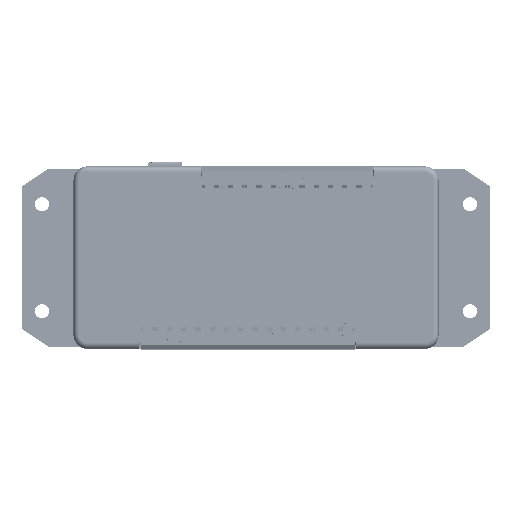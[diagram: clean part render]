
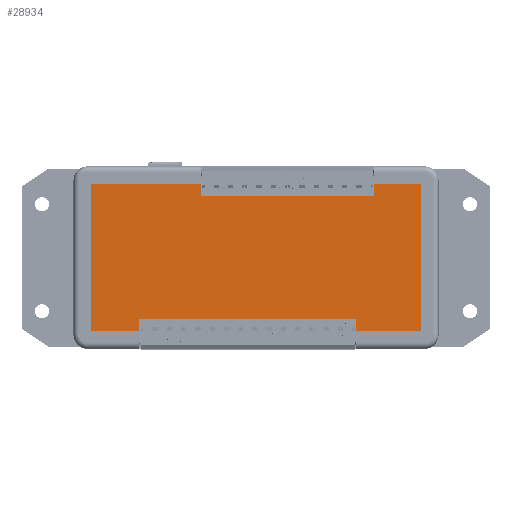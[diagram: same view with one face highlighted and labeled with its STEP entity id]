
A CAD part, top view. The second image highlights one B-rep face of the part: STEP entity #28934.
In plain terms, the highlighted planar face has unit normal (0, 0, 1) as drawn and (0, 0, -1) by its records, which use the part's own axes.
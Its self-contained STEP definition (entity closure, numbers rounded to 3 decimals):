
#571 = VERTEX_POINT ( 'NONE', #87864 ) ;
#5915 = EDGE_CURVE ( 'NONE', #27795, #58516, #85189, .T. ) ;
#7219 = DIRECTION ( 'NONE',  ( 0., 0., 1. ) ) ;
#8303 = DIRECTION ( 'NONE',  ( -1., 0., 0. ) ) ;
#8310 = CARTESIAN_POINT ( 'NONE',  ( 42., 0., 1. ) ) ;
#8472 = ORIENTED_EDGE ( 'NONE', *, *, #76741, .T. ) ;
#9124 = ORIENTED_EDGE ( 'NONE', *, *, #62205, .T. ) ;
#14053 = CARTESIAN_POINT ( 'NONE',  ( 58.625, -26.125, 1. ) ) ;
#15846 = CARTESIAN_POINT ( 'NONE',  ( -58.625, 26.125, 1. ) ) ;
#15973 = VECTOR ( 'NONE', #89923, 1000. ) ;
#17012 = EDGE_CURVE ( 'NONE', #31208, #110769, #85721, .T. ) ;
#18118 = EDGE_LOOP ( 'NONE', ( #37699, #126324, #127129, #111694, #57281, #114573, #118217, #8472, #9124, #18633, #51416, #98467 ) ) ;
#18633 = ORIENTED_EDGE ( 'NONE', *, *, #50594, .T. ) ;
#18807 = VECTOR ( 'NONE', #123680, 1000. ) ;
#23881 = EDGE_CURVE ( 'NONE', #87016, #110769, #47344, .T. ) ;
#26964 = VERTEX_POINT ( 'NONE', #61712 ) ;
#27154 = VERTEX_POINT ( 'NONE', #125341 ) ;
#27795 = VERTEX_POINT ( 'NONE', #69335 ) ;
#28852 = EDGE_CURVE ( 'NONE', #87016, #27795, #97788, .T. ) ;
#28934 = ADVANCED_FACE ( 'NONE', ( #114796 ), #125845, .F. ) ;
#30653 = CARTESIAN_POINT ( 'NONE',  ( 35.5, 0., 1. ) ) ;
#30776 = CARTESIAN_POINT ( 'NONE',  ( -58.625, -26.125, 1. ) ) ;
#31208 = VERTEX_POINT ( 'NONE', #106888 ) ;
#32327 = CARTESIAN_POINT ( 'NONE',  ( -19.5, -22., 1. ) ) ;
#32580 = DIRECTION ( 'NONE',  ( -1., 0., 0. ) ) ;
#32780 = LINE ( 'NONE', #36710, #85430 ) ;
#33081 = VECTOR ( 'NONE', #67590, 1000. ) ;
#36642 = CARTESIAN_POINT ( 'NONE',  ( 0., 0., 1. ) ) ;
#36710 = CARTESIAN_POINT ( 'NONE',  ( -58.625, 26.125, 1. ) ) ;
#37546 = DIRECTION ( 'NONE',  ( 1., 0., 0. ) ) ;
#37699 = ORIENTED_EDGE ( 'NONE', *, *, #23881, .F. ) ;
#38637 = EDGE_CURVE ( 'NONE', #78867, #124834, #76417, .T. ) ;
#45027 = CARTESIAN_POINT ( 'NONE',  ( 58.625, 26.125, 1. ) ) ;
#45292 = CARTESIAN_POINT ( 'NONE',  ( -19.5, 0., 1. ) ) ;
#45355 = DIRECTION ( 'NONE',  ( 1., 0., 0. ) ) ;
#45484 = CARTESIAN_POINT ( 'NONE',  ( -41.5, 0., 1. ) ) ;
#46156 = VECTOR ( 'NONE', #8303, 1000. ) ;
#47009 = VECTOR ( 'NONE', #123857, 1000. ) ;
#47344 = LINE ( 'NONE', #57054, #123232 ) ;
#49248 = LINE ( 'NONE', #126956, #46156 ) ;
#50594 = EDGE_CURVE ( 'NONE', #571, #87990, #110188, .T. ) ;
#50935 = CARTESIAN_POINT ( 'NONE',  ( -58.625, 26.125, 1. ) ) ;
#51416 = ORIENTED_EDGE ( 'NONE', *, *, #96882, .T. ) ;
#52439 = DIRECTION ( 'NONE',  ( 0., -1., 0. ) ) ;
#55885 = CARTESIAN_POINT ( 'NONE',  ( -58.625, 26.125, 1. ) ) ;
#57054 = CARTESIAN_POINT ( 'NONE',  ( 0., -22., 1. ) ) ;
#57281 = ORIENTED_EDGE ( 'NONE', *, *, #77299, .T. ) ;
#58516 = VERTEX_POINT ( 'NONE', #30776 ) ;
#61712 = CARTESIAN_POINT ( 'NONE',  ( -41.5, 26.125, 1. ) ) ;
#61793 = AXIS2_PLACEMENT_3D ( 'NONE', #36642, #7219, #76432 ) ;
#62205 = EDGE_CURVE ( 'NONE', #27154, #571, #32780, .T. ) ;
#63952 = VECTOR ( 'NONE', #66677, 1000. ) ;
#66677 = DIRECTION ( 'NONE',  ( 1., 0., 0. ) ) ;
#67590 = DIRECTION ( 'NONE',  ( 0., 1., 0. ) ) ;
#68678 = VERTEX_POINT ( 'NONE', #50935 ) ;
#69335 = CARTESIAN_POINT ( 'NONE',  ( -19.5, -26.125, 1. ) ) ;
#70871 = VECTOR ( 'NONE', #105011, 1000. ) ;
#71948 = CARTESIAN_POINT ( 'NONE',  ( -58.625, -26.125, 1. ) ) ;
#72009 = EDGE_CURVE ( 'NONE', #58516, #68678, #120426, .T. ) ;
#76417 = LINE ( 'NONE', #122995, #47009 ) ;
#76432 = DIRECTION ( 'NONE',  ( 1., 0., 0. ) ) ;
#76741 = EDGE_CURVE ( 'NONE', #124834, #27154, #118226, .T. ) ;
#77299 = EDGE_CURVE ( 'NONE', #68678, #26964, #116629, .T. ) ;
#78867 = VERTEX_POINT ( 'NONE', #100433 ) ;
#78940 = VECTOR ( 'NONE', #32580, 1000. ) ;
#82067 = VECTOR ( 'NONE', #52439, 1000. ) ;
#83847 = VECTOR ( 'NONE', #104301, 1000. ) ;
#85189 = LINE ( 'NONE', #71948, #78940 ) ;
#85430 = VECTOR ( 'NONE', #45355, 1000. ) ;
#85721 = LINE ( 'NONE', #8310, #33081 ) ;
#86307 = CARTESIAN_POINT ( 'NONE',  ( 35.5, 22., 1. ) ) ;
#87016 = VERTEX_POINT ( 'NONE', #32327 ) ;
#87864 = CARTESIAN_POINT ( 'NONE',  ( 58.625, 26.125, 1. ) ) ;
#87990 = VERTEX_POINT ( 'NONE', #14053 ) ;
#89923 = DIRECTION ( 'NONE',  ( 0., 1., 0. ) ) ;
#90987 = EDGE_CURVE ( 'NONE', #26964, #78867, #105304, .T. ) ;
#96882 = EDGE_CURVE ( 'NONE', #87990, #31208, #49248, .T. ) ;
#97788 = LINE ( 'NONE', #45292, #18807 ) ;
#98467 = ORIENTED_EDGE ( 'NONE', *, *, #17012, .T. ) ;
#100433 = CARTESIAN_POINT ( 'NONE',  ( -41.5, 22., 1. ) ) ;
#104301 = DIRECTION ( 'NONE',  ( 0., -1., 0. ) ) ;
#105011 = DIRECTION ( 'NONE',  ( 0., 1., 0. ) ) ;
#105304 = LINE ( 'NONE', #45484, #82067 ) ;
#106888 = CARTESIAN_POINT ( 'NONE',  ( 42., -26.125, 1. ) ) ;
#110188 = LINE ( 'NONE', #45027, #83847 ) ;
#110769 = VERTEX_POINT ( 'NONE', #113813 ) ;
#111694 = ORIENTED_EDGE ( 'NONE', *, *, #72009, .T. ) ;
#113813 = CARTESIAN_POINT ( 'NONE',  ( 42., -22., 1. ) ) ;
#114573 = ORIENTED_EDGE ( 'NONE', *, *, #90987, .T. ) ;
#114796 = FACE_OUTER_BOUND ( 'NONE', #18118, .T. ) ;
#116629 = LINE ( 'NONE', #55885, #63952 ) ;
#118217 = ORIENTED_EDGE ( 'NONE', *, *, #38637, .T. ) ;
#118226 = LINE ( 'NONE', #30653, #15973 ) ;
#120426 = LINE ( 'NONE', #15846, #70871 ) ;
#122995 = CARTESIAN_POINT ( 'NONE',  ( 0., 22., 1. ) ) ;
#123232 = VECTOR ( 'NONE', #37546, 1000. ) ;
#123680 = DIRECTION ( 'NONE',  ( 0., -1., 0. ) ) ;
#123857 = DIRECTION ( 'NONE',  ( 1., 0., 0. ) ) ;
#124834 = VERTEX_POINT ( 'NONE', #86307 ) ;
#125341 = CARTESIAN_POINT ( 'NONE',  ( 35.5, 26.125, 1. ) ) ;
#125845 = PLANE ( 'NONE',  #61793 ) ;
#126324 = ORIENTED_EDGE ( 'NONE', *, *, #28852, .T. ) ;
#126956 = CARTESIAN_POINT ( 'NONE',  ( -58.625, -26.125, 1. ) ) ;
#127129 = ORIENTED_EDGE ( 'NONE', *, *, #5915, .T. ) ;
